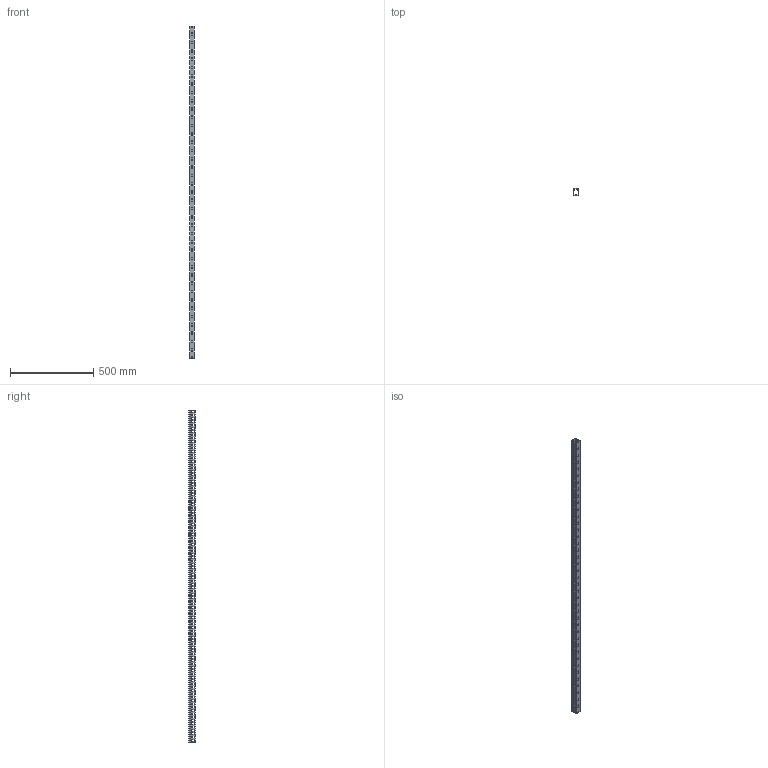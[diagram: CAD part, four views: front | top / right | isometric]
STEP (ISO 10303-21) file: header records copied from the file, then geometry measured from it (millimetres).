
FILE_DESCRIPTION (( 'STEP AP214' ), '1' );
FILE_NAME ('KD-34-20-H.STEP', '2020-02-19T00:10:18', ( '' ), ( '' ), 'SwSTEP 2.0', 'SolidWorks 2018', '' );
FILE_SCHEMA (( 'AUTOMOTIVE_DESIGN' ));
Length unit declared in the file: millimetre
Products named in the file (3): KD-34-20-H; KD-34-20-H-body; KD-34-20-cover
Assembly tree (2 placements, depth 2):
  KD-34-20-H
    KD-34-20-H-body
    KD-34-20-cover
Bounding box: 30 x 40.17 x 2000 mm (x, y, z)
Volume: 498690.5 mm3; surface area: 635572.3 mm2
Topology: 2 solids, 2 shells, 1863 faces, 5577 edges, 3718 vertices
Faces by surface type: cylinder 955, plane 908
Entity records: 64367 total; most frequent: DIRECTION 11223, CARTESIAN_POINT 11163, ORIENTED_EDGE 11154, EDGE_CURVE 5577, AXIS2_PLACEMENT_3D 3778, VERTEX_POINT 3718, LINE 3667, VECTOR 3667
